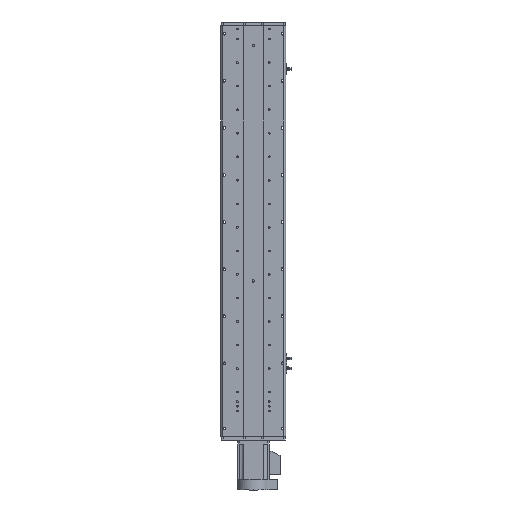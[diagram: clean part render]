
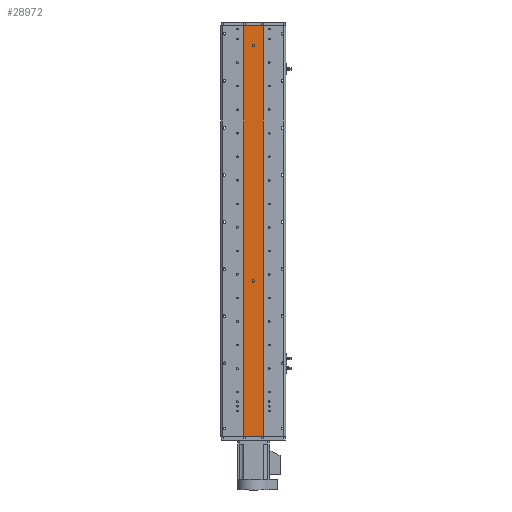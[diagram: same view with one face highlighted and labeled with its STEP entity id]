
A CAD part, front view. The second image highlights one B-rep face of the part: STEP entity #28972.
In plain terms, the highlighted planar face has unit normal (0, -1, 0).
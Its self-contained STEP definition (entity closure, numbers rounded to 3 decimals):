
#162 = EDGE_CURVE ( 'NONE', #5387, #28745, #39019, .T. ) ;
#422 = AXIS2_PLACEMENT_3D ( 'NONE', #8453, #29943, #11558 ) ;
#793 = EDGE_CURVE ( 'NONE', #28506, #22741, #24538, .T. ) ;
#1786 = DIRECTION ( 'NONE',  ( 0., 0., -1. ) ) ;
#2809 = CARTESIAN_POINT ( 'NONE',  ( 25., 1., 523. ) ) ;
#3322 = VERTEX_POINT ( 'NONE', #27823 ) ;
#3918 = EDGE_CURVE ( 'NONE', #37347, #6561, #20209, .T. ) ;
#4519 = LINE ( 'NONE', #15283, #36258 ) ;
#4809 = CARTESIAN_POINT ( 'NONE',  ( 25., 1., -523. ) ) ;
#5230 = VECTOR ( 'NONE', #8831, 1000. ) ;
#5387 = VERTEX_POINT ( 'NONE', #6105 ) ;
#5839 = CARTESIAN_POINT ( 'NONE',  ( 0., 1., 473. ) ) ;
#6105 = CARTESIAN_POINT ( 'NONE',  ( 0., 1., 470. ) ) ;
#6121 = DIRECTION ( 'NONE',  ( 1., 0., 0. ) ) ;
#6561 = VERTEX_POINT ( 'NONE', #25407 ) ;
#6778 = AXIS2_PLACEMENT_3D ( 'NONE', #28359, #9948, #31436 ) ;
#7208 = CARTESIAN_POINT ( 'NONE',  ( 25., 1., 523. ) ) ;
#8453 = CARTESIAN_POINT ( 'NONE',  ( 0., 1., 473. ) ) ;
#8831 = DIRECTION ( 'NONE',  ( 0., 0., -1. ) ) ;
#8959 = DIRECTION ( 'NONE',  ( 0., 0., -1. ) ) ;
#9001 = DIRECTION ( 'NONE',  ( 1., 0., 0. ) ) ;
#9023 = DIRECTION ( 'NONE',  ( 0., -1., 0. ) ) ;
#9948 = DIRECTION ( 'NONE',  ( 0., -1., 0. ) ) ;
#10169 = DIRECTION ( 'NONE',  ( 0., 1., 0. ) ) ;
#10296 = DIRECTION ( 'NONE',  ( 0., 0., 1. ) ) ;
#11558 = DIRECTION ( 'NONE',  ( 0., 0., -1. ) ) ;
#11671 = CARTESIAN_POINT ( 'NONE',  ( -25., 1., 523. ) ) ;
#12056 = EDGE_LOOP ( 'NONE', ( #17136, #12939 ) ) ;
#12079 = FACE_BOUND ( 'NONE', #34613, .T. ) ;
#12803 = ORIENTED_EDGE ( 'NONE', *, *, #25539, .T. ) ;
#12939 = ORIENTED_EDGE ( 'NONE', *, *, #12953, .F. ) ;
#12953 = EDGE_CURVE ( 'NONE', #28745, #5387, #30599, .T. ) ;
#13044 = FACE_BOUND ( 'NONE', #12056, .T. ) ;
#13298 = ORIENTED_EDGE ( 'NONE', *, *, #3918, .F. ) ;
#13440 = LINE ( 'NONE', #11671, #5230 ) ;
#13821 = CARTESIAN_POINT ( 'NONE',  ( -25., 1., 523. ) ) ;
#14528 = LINE ( 'NONE', #38590, #21710 ) ;
#15283 = CARTESIAN_POINT ( 'NONE',  ( 25., 1., -523. ) ) ;
#15811 = AXIS2_PLACEMENT_3D ( 'NONE', #27418, #9023, #30492 ) ;
#17136 = ORIENTED_EDGE ( 'NONE', *, *, #162, .F. ) ;
#17485 = EDGE_CURVE ( 'NONE', #22741, #28506, #26349, .T. ) ;
#17994 = CARTESIAN_POINT ( 'NONE',  ( 0., 1., 476. ) ) ;
#18730 = ORIENTED_EDGE ( 'NONE', *, *, #22406, .F. ) ;
#19632 = CARTESIAN_POINT ( 'NONE',  ( 0., 1., -130. ) ) ;
#20070 = EDGE_LOOP ( 'NONE', ( #38614, #18730, #13298, #12803 ) ) ;
#20209 = LINE ( 'NONE', #2809, #27442 ) ;
#21710 = VECTOR ( 'NONE', #1786, 1000. ) ;
#22151 = FACE_OUTER_BOUND ( 'NONE', #20070, .T. ) ;
#22406 = EDGE_CURVE ( 'NONE', #6561, #33241, #14528, .T. ) ;
#22741 = VERTEX_POINT ( 'NONE', #19632 ) ;
#23511 = AXIS2_PLACEMENT_3D ( 'NONE', #5839, #27372, #8959 ) ;
#24538 = CIRCLE ( 'NONE', #6778, 3. ) ;
#25407 = CARTESIAN_POINT ( 'NONE',  ( 25., 1., 523. ) ) ;
#25539 = EDGE_CURVE ( 'NONE', #37347, #3322, #13440, .T. ) ;
#25619 = PLANE ( 'NONE',  #25787 ) ;
#25787 = AXIS2_PLACEMENT_3D ( 'NONE', #7208, #10169, #10296 ) ;
#26349 = CIRCLE ( 'NONE', #15811, 3. ) ;
#27372 = DIRECTION ( 'NONE',  ( 0., -1., 0. ) ) ;
#27418 = CARTESIAN_POINT ( 'NONE',  ( 0., 1., -127. ) ) ;
#27442 = VECTOR ( 'NONE', #9001, 1000. ) ;
#27823 = CARTESIAN_POINT ( 'NONE',  ( -25., 1., -523. ) ) ;
#28359 = CARTESIAN_POINT ( 'NONE',  ( 0., 1., -127. ) ) ;
#28506 = VERTEX_POINT ( 'NONE', #34921 ) ;
#28745 = VERTEX_POINT ( 'NONE', #17994 ) ;
#28972 = ADVANCED_FACE ( 'NONE', ( #13044, #12079, #22151 ), #25619, .F. ) ;
#29531 = ORIENTED_EDGE ( 'NONE', *, *, #17485, .F. ) ;
#29943 = DIRECTION ( 'NONE',  ( 0., -1., 0. ) ) ;
#30492 = DIRECTION ( 'NONE',  ( 0., 0., -1. ) ) ;
#30599 = CIRCLE ( 'NONE', #422, 3. ) ;
#31436 = DIRECTION ( 'NONE',  ( 0., 0., -1. ) ) ;
#33241 = VERTEX_POINT ( 'NONE', #4809 ) ;
#33480 = EDGE_CURVE ( 'NONE', #3322, #33241, #4519, .T. ) ;
#34237 = ORIENTED_EDGE ( 'NONE', *, *, #793, .F. ) ;
#34613 = EDGE_LOOP ( 'NONE', ( #29531, #34237 ) ) ;
#34921 = CARTESIAN_POINT ( 'NONE',  ( 0., 1., -124. ) ) ;
#36258 = VECTOR ( 'NONE', #6121, 1000. ) ;
#37347 = VERTEX_POINT ( 'NONE', #13821 ) ;
#38590 = CARTESIAN_POINT ( 'NONE',  ( 25., 1., 523. ) ) ;
#38614 = ORIENTED_EDGE ( 'NONE', *, *, #33480, .T. ) ;
#39019 = CIRCLE ( 'NONE', #23511, 3. ) ;
